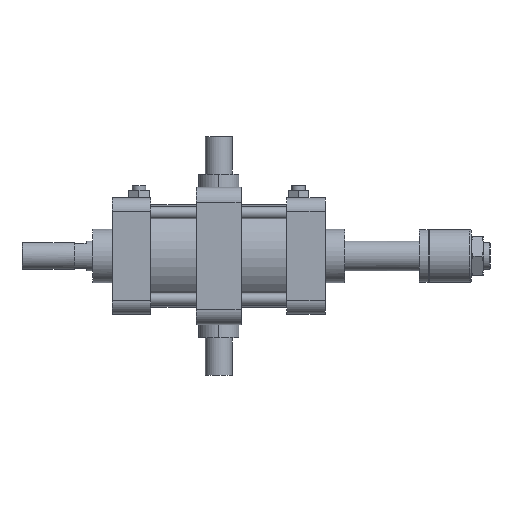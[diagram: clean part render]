
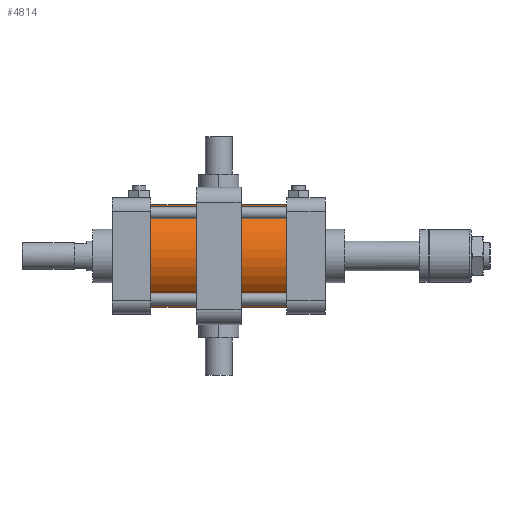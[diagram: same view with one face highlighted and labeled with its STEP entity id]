
A CAD part, front view. The second image highlights one B-rep face of the part: STEP entity #4814.
In plain terms, the highlighted cylindrical face has radius 34.5 mm (diameter 69 mm), a partial arc.
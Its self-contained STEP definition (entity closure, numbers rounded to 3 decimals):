
#713 = CARTESIAN_POINT ( 'NONE',  ( 45.5, 0., 0. ) ) ;
#915 = CARTESIAN_POINT ( 'NONE',  ( -45.5, 0., -34.5 ) ) ;
#1643 = DIRECTION ( 'NONE',  ( 0., 0., 1. ) ) ;
#1682 = EDGE_CURVE ( 'NONE', #5051, #8569, #3645, .T. ) ;
#2490 = DIRECTION ( 'NONE',  ( -1., 0., 0. ) ) ;
#2978 = CARTESIAN_POINT ( 'NONE',  ( -45.5, 0., 34.5 ) ) ;
#3258 = CIRCLE ( 'NONE', #3545, 34.5 ) ;
#3545 = AXIS2_PLACEMENT_3D ( 'NONE', #4455, #8778, #10168 ) ;
#3645 = LINE ( 'NONE', #10233, #6564 ) ;
#4008 = CIRCLE ( 'NONE', #5273, 34.5 ) ;
#4047 = EDGE_CURVE ( 'NONE', #8569, #9264, #3258, .T. ) ;
#4070 = CARTESIAN_POINT ( 'NONE',  ( -29.1, 0., 34.5 ) ) ;
#4455 = CARTESIAN_POINT ( 'NONE',  ( -45.5, 0., 0. ) ) ;
#4814 = ADVANCED_FACE ( 'NONE', ( #5301 ), #8772, .T. ) ;
#5051 = VERTEX_POINT ( 'NONE', #6166 ) ;
#5104 = VECTOR ( 'NONE', #6145, 1000. ) ;
#5273 = AXIS2_PLACEMENT_3D ( 'NONE', #713, #2490, #6796 ) ;
#5301 = FACE_OUTER_BOUND ( 'NONE', #5720, .T. ) ;
#5351 = ORIENTED_EDGE ( 'NONE', *, *, #4047, .F. ) ;
#5374 = CARTESIAN_POINT ( 'NONE',  ( 45.5, 0., 34.5 ) ) ;
#5622 = ORIENTED_EDGE ( 'NONE', *, *, #8519, .T. ) ;
#5642 = DIRECTION ( 'NONE',  ( -1., 0., 0. ) ) ;
#5720 = EDGE_LOOP ( 'NONE', ( #6885, #7249, #5622, #5351 ) ) ;
#6145 = DIRECTION ( 'NONE',  ( -1., 0., 0. ) ) ;
#6166 = CARTESIAN_POINT ( 'NONE',  ( 45.5, 0., -34.5 ) ) ;
#6564 = VECTOR ( 'NONE', #7257, 1000. ) ;
#6673 = CARTESIAN_POINT ( 'NONE',  ( -29.1, 0., 0. ) ) ;
#6796 = DIRECTION ( 'NONE',  ( 0., 0., 1. ) ) ;
#6885 = ORIENTED_EDGE ( 'NONE', *, *, #1682, .F. ) ;
#6955 = VERTEX_POINT ( 'NONE', #5374 ) ;
#7249 = ORIENTED_EDGE ( 'NONE', *, *, #8997, .T. ) ;
#7257 = DIRECTION ( 'NONE',  ( -1., 0., 0. ) ) ;
#8519 = EDGE_CURVE ( 'NONE', #6955, #9264, #9969, .T. ) ;
#8569 = VERTEX_POINT ( 'NONE', #915 ) ;
#8772 = CYLINDRICAL_SURFACE ( 'NONE', #9770, 34.5 ) ;
#8778 = DIRECTION ( 'NONE',  ( -1., 0., 0. ) ) ;
#8997 = EDGE_CURVE ( 'NONE', #5051, #6955, #4008, .T. ) ;
#9264 = VERTEX_POINT ( 'NONE', #2978 ) ;
#9770 = AXIS2_PLACEMENT_3D ( 'NONE', #6673, #5642, #1643 ) ;
#9969 = LINE ( 'NONE', #4070, #5104 ) ;
#10168 = DIRECTION ( 'NONE',  ( 0., 0., 1. ) ) ;
#10233 = CARTESIAN_POINT ( 'NONE',  ( -29.1, 0., -34.5 ) ) ;
